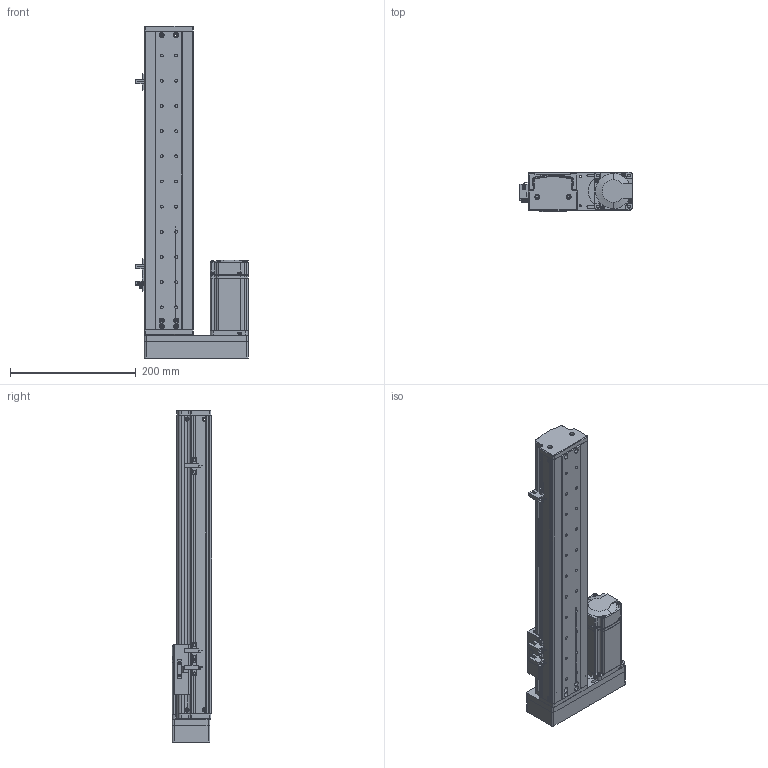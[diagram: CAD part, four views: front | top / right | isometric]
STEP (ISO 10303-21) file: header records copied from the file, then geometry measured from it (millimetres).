
FILE_DESCRIPTION (( 'STEP AP214' ), '1' );
FILE_NAME ('KSD75S-S320-ML-CM.STEP', '2019-10-18T06:55:39', ( '微软用户' ), ( '微软中国' ), 'SwSTEP 2.0', 'SolidWorks 2014', '' );
FILE_SCHEMA (( 'AUTOMOTIVE_DESIGN' ));
Length unit declared in the file: millimetre
Products named in the file (13): KSD75S-S320-ML-CM; 320俴最; MGW15H賑寢320俴最 ; 75遵賑雄釱; 75遵耀郪耜啣-320俴最; 75裔啣-320俴最; ヶ傷啣; 綴傷啣 ; U倰嫖萇EEㄜSX672; 覜茼え100遵圉猾敕; 75宽马达安装板连板左右折丝杆; 75宽模组保护罩左右折; MHMD042G1CA_2_03
Assembly tree (15 placements, depth 3):
  KSD75S-S320-ML-CM
    MGW15H賑寢320俴最 
      320俴最
    75遵賑雄釱
    75遵耀郪耜啣-320俴最  x2
    75裔啣-320俴最
    ヶ傷啣
    綴傷啣 
    U倰嫖萇EEㄜSX672  x3
    覜茼え100遵圉猾敕
    75宽马达安装板连板左右折丝杆
    75宽模组保护罩左右折
    MHMD042G1CA_2_03
Bounding box: 178.7 x 63 x 527.5 mm (x, y, z)
Volume: 761386.5 mm3; surface area: 478128.5 mm2
Topology: 13 solids, 14 shells, 1443 faces, 4090 edges, 2669 vertices
Faces by surface type: cylinder 675, plane 621, cone 129, bspline 18
Entity records: 46302 total; most frequent: CARTESIAN_POINT 8818, DIRECTION 6884, ORIENTED_EDGE 6460, EDGE_CURVE 3301, AXIS2_PLACEMENT_3D 2514, VERTEX_POINT 2187, VECTOR 1856, LINE 1856
